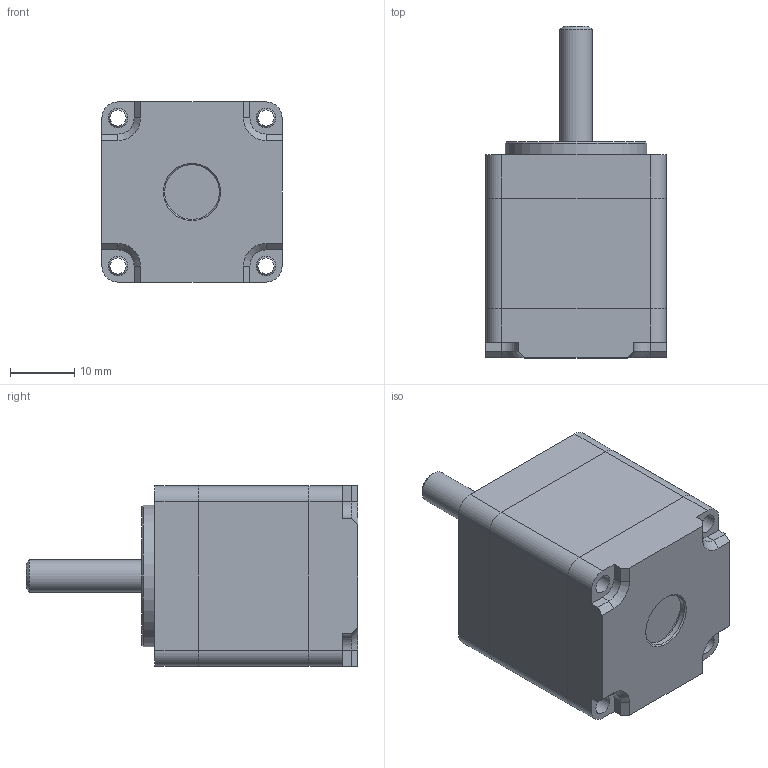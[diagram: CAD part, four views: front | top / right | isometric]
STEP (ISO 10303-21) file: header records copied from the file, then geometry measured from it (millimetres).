
FILE_DESCRIPTION(/* description */ (''),/* implementation_level */ '2;1');
FILE_NAME(/* name */ 'C:\Users\raffaele\Downloads\Projects\E&D\ipt-to-step-conversion\SLDPRT to STP\28SH32.stp',/* time_stamp */ '2021-04-07T17:16:13+02:00',/* author */ ('raffaele'),/* organization */ (''),/* preprocessor_version */ 'ST-DEVELOPER v18.1',/* originating_system */ 'Autodesk Inventor 2021',/* authorisation */ '');
FILE_SCHEMA (('AUTOMOTIVE_DESIGN { 1 0 10303 214 3 1 1 }'));
Length unit declared in the file: inch
Products named in the file (1): 28SH32
Bounding box: 28 x 51.55 x 28 mm (x, y, z)
Surface area: 6314.1 mm2 (no closed solid volume)
Topology: 0 solids, 7 shells, 84 faces, 215 edges, 139 vertices
Faces by surface type: plane 40, cylinder 32, cone 12
Full cylindrical faces by diameter (mm): 2.5 x4, 3 x4, 5 x1, 8.5 x1, 10 x1, 10.5 x1, 13 x1, 22 x1, 23 x1, 25.5 x1
Entity records: 2687 total; most frequent: DIRECTION 464, CARTESIAN_POINT 439, ORIENTED_EDGE 382, EDGE_CURVE 215, AXIS2_PLACEMENT_3D 164, VERTEX_POINT 139, LINE 136, VECTOR 136
